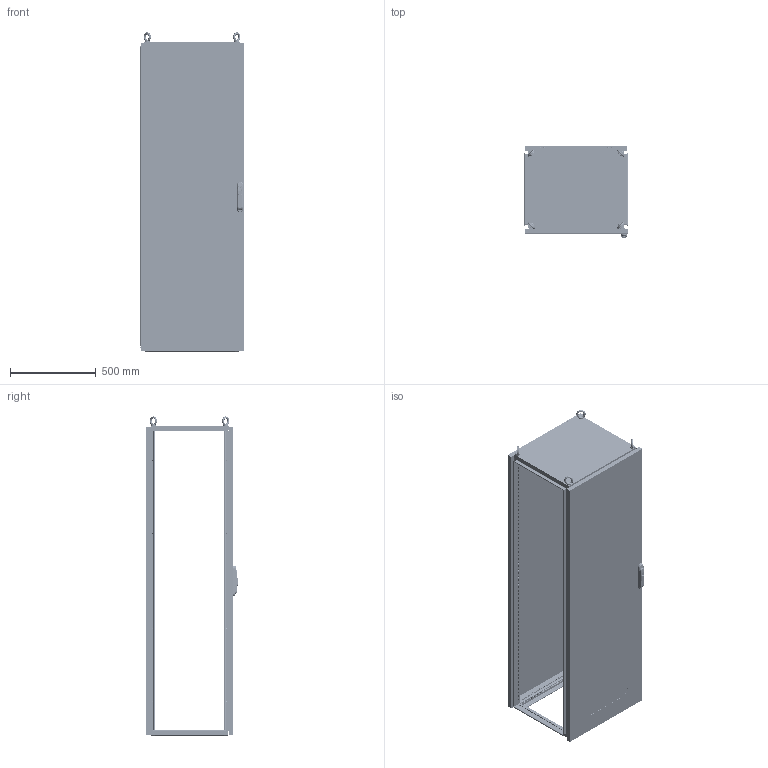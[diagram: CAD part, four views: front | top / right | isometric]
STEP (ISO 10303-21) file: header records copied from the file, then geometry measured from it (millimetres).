
FILE_DESCRIPTION(/* description */ ('Unknown'),/* implementation_level */ '2;1');
FILE_NAME(/* name */ 'MLA06018050',/* time_stamp */ '2025-03-11T09:11:32+01:00',/* author */ ('Unknown'),/* organization */ ('Unknown'),/* preprocessor_version */ 'ST-DEVELOPER v19.4',/* originating_system */ 'Solid Edge',/* authorisation */ 'Unknown');
FILE_SCHEMA (('CONFIG_CONTROL_DESIGN'));
Products named in the file (53): MLA06018050; F0000001.24; AE00198.03; M000X000.76; M0000000.29; AE00500.10; M000X000.47; M0000000.54; M0000000.44; M0000000.06; AE00219.03; AE00715.01; M000X000.60; M0000000.64; F000X002.06; F000X002.07; F0000001.47; F0000000.07; AE00100.03_oa_0; AE00100.03_oa_1; AE00100.03_oa_2; AE00100.03_oa_3; M0000000.37; AE00701.03; F0000000.13; M000X001.56; M000X001.55; M000X001.54; M0000001.30; AE00413.05; AE00417.01; M0000001.06; C0000001.45_oa_4; C0000001.45_oa_5; AE00322.01; M000X001.12; F0000002.21_oa_6; F0000002.21_oa_7; F0000002.15; AE01400.01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
Assembly tree (217 placements, depth 5):
  MLA06018050
    F0000001.24  x4
    AE00198.03  x16
    M000X000.76
      M0000000.29  x4
      AE00500.10  x48
      M000X000.47  x2
        M0000000.54
        M0000000.44
        M0000000.06
    AE00219.03  x8
    AE00715.01  x4
    M000X000.60
      M0000000.64
    F000X002.06
      F000X002.07
        F0000001.47
      F0000000.07  x2
      AE00100.03_oa_0
      AE00100.03_oa_1
      AE00100.03_oa_2
      AE00100.03_oa_3
    M0000000.37  x8
    AE00701.03  x4
    F0000000.13  x4
    M000X001.56
      M000X001.55
        M000X001.54
          M0000001.30
          AE00413.05  x6
          AE00417.01  x2
          M0000001.06
          C0000001.45_oa_4
          C0000001.45_oa_5
          AE00322.01  x2
        M000X001.12
          F0000002.21_oa_6
          F0000002.21_oa_7
          F0000002.15  x2
          AE01400.01  x4
        AE00192.01  x10
        F0000000.69  x10
      F0000000.12  x8
      AE00222.15  x8
      AE00316.01  x8
      AE00992.10_oa_8
      AE00992.31
      AE00315.01  x4
      AE00992.74   x2
      AE00992.18  x4
      AE00992.16
      AE00636.02  x8
    F0000000.08  x4
Bounding box: 600 x 538.2 x 1856.92 mm (x, y, z)
Volume: 14571246.4 mm3; surface area: 11251111.3 mm2
Topology: 226 solids, 226 shells, 10112 faces, 28543 edges, 19054 vertices
Faces by surface type: plane 7165, cylinder 2307, cone 552, torus 58, sphere 16, bspline 14
Full cylindrical faces by diameter (mm): 2 x4, 3 x1, 3.242 x2, 4 x12, 4.134 x7, 4.25 x176, 4.5 x832, 4.917 x65, 4.918 x8, 5 x8, 5.25 x2, 5.5 x10, 6 x68, 6.1 x20, 6.2 x8, 6.5 x22, 7.5 x2, 7.827 x2, 8.3 x8, 8.5 x2, 9 x48, 10.106 x8, 10.5 x16, 11 x10, 11.8 x8, 12 x16, 13 x4, 14 x1, 16 x1, 17 x1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
Entity records: 81957 total; most frequent: CARTESIAN_POINT 14285, DIRECTION 12740, ORIENTED_EDGE 12524, EDGE_CURVE 6262, LINE 4754, VECTOR 4754, VERTEX_POINT 4470, FACE_BOUND 4184
